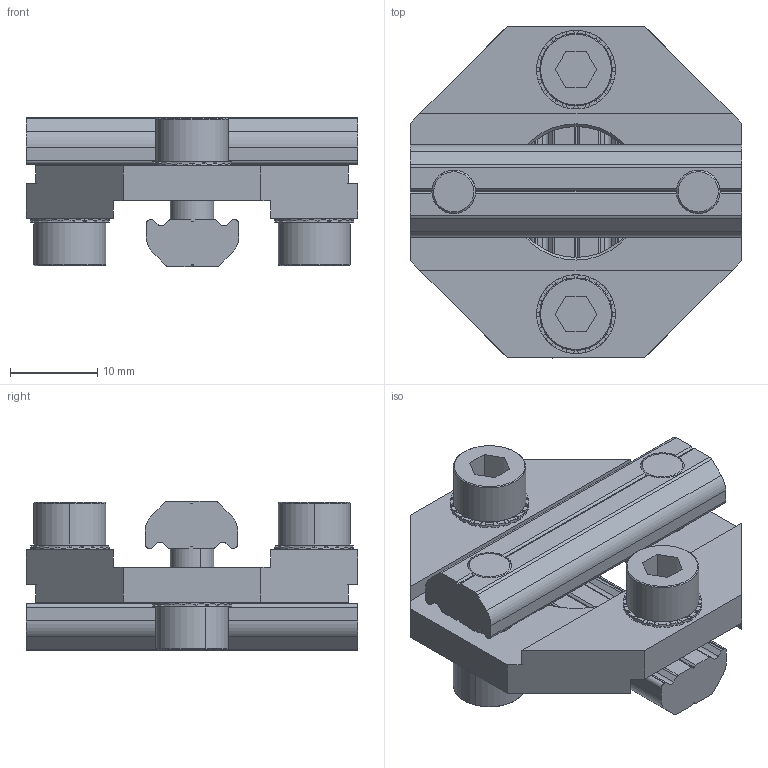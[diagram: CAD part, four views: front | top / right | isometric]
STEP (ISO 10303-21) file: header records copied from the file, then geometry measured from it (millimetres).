
FILE_DESCRIPTION (( 'STEP AP214' ), '1' );
FILE_NAME ('SMBA-1818T.STEP', '2022-12-08T03:44:41', ( '' ), ( '' ), 'SwSTEP 2.0', 'SolidWorks 2018', '' );
FILE_SCHEMA (( 'AUTOMOTIVE_DESIGN' ));
Length unit declared in the file: millimetre
Products named in the file (1): SMBA-1818T
Bounding box: 38 x 38 x 17.1 mm (x, y, z)
Volume: 8916.2 mm3; surface area: 8110.2 mm2
Topology: 11 solids, 11 shells, 888 faces, 2562 edges, 1688 vertices
Faces by surface type: plane 758, cylinder 86, cone 44
Entity records: 39454 total; most frequent: CARTESIAN_POINT 5495, DIRECTION 5132, ORIENTED_EDGE 5124, EDGE_CURVE 2562, AXIS2_PLACEMENT_3D 1733, VERTEX_POINT 1688, VECTOR 1666, LINE 1666
